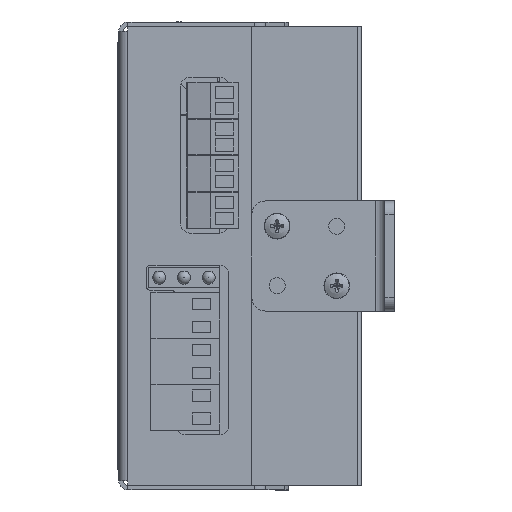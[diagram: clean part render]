
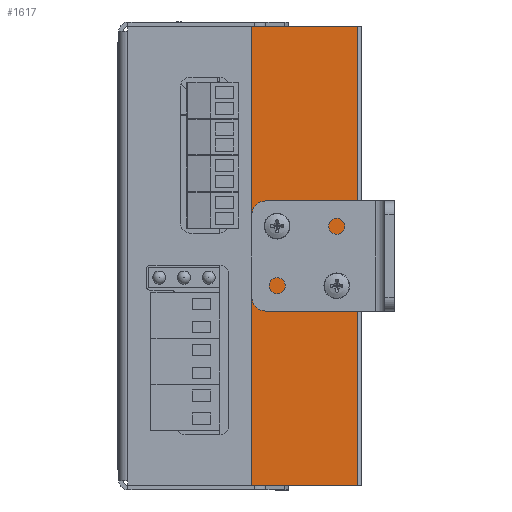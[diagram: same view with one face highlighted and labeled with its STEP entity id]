
A CAD part, left-side view. The second image highlights one B-rep face of the part: STEP entity #1617.
In plain terms, the highlighted planar face has unit normal (-1, 0, 0).
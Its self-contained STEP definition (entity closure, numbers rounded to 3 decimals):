
#1617=ADVANCED_FACE('',(#14464,#14466,#14468),#14470,.T.);
#14464=FACE_BOUND('',#14465,.T.);
#14465=EDGE_LOOP('',(#30751,#30752,#30753,#30754));
#14466=FACE_BOUND('',#14467,.T.);
#14467=EDGE_LOOP('',(#30755));
#14468=FACE_BOUND('',#14469,.T.);
#14469=EDGE_LOOP('',(#30756));
#14470=PLANE('',#14471);
#14471=AXIS2_PLACEMENT_3D('',#14472,#14473,#14474);
#14472=CARTESIAN_POINT('',(-45.,0.,-50.));
#14473=DIRECTION('',(-1.,0.,0.));
#14474=DIRECTION('',(0.,-1.,0.));
#30751=ORIENTED_EDGE('',*,*,#42599,.T.);
#30752=ORIENTED_EDGE('',*,*,#42600,.T.);
#30753=ORIENTED_EDGE('',*,*,#42601,.F.);
#30754=ORIENTED_EDGE('',*,*,#42602,.F.);
#30755=ORIENTED_EDGE('',*,*,#42603,.T.);
#30756=ORIENTED_EDGE('',*,*,#42604,.T.);
#42599=EDGE_CURVE('',#48523,#48524,#48525,.T.);
#42600=EDGE_CURVE('',#48524,#48526,#48527,.T.);
#42601=EDGE_CURVE('',#48528,#48526,#48529,.T.);
#42602=EDGE_CURVE('',#48523,#48528,#48530,.T.);
#42603=EDGE_CURVE('',#48531,#48531,#48532,.F.);
#42604=EDGE_CURVE('',#48533,#48533,#48534,.F.);
#48523=VERTEX_POINT('',#58390);
#48524=VERTEX_POINT('',#58391);
#48525=LINE('',#58392,#58393);
#48526=VERTEX_POINT('',#58395);
#48527=LINE('',#58396,#58397);
#48528=VERTEX_POINT('',#58399);
#48529=LINE('',#58400,#58401);
#48530=LINE('',#58403,#58404);
#48531=VERTEX_POINT('',#58406);
#48532=CIRCLE('',#58407,1.229);
#48533=VERTEX_POINT('',#58411);
#48534=CIRCLE('',#58412,1.229);
#58390=CARTESIAN_POINT('',(-45.,0.,-50.));
#58391=CARTESIAN_POINT('',(-45.,-23.,-50.));
#58392=CARTESIAN_POINT('',(-45.,0.,-50.));
#58393=VECTOR('',#58394,1.);
#58394=DIRECTION('',(0.,-1.,0.));
#58395=CARTESIAN_POINT('',(-45.,-23.,50.));
#58396=CARTESIAN_POINT('',(-45.,-23.,-50.));
#58397=VECTOR('',#58398,1.);
#58398=DIRECTION('',(0.,0.,1.));
#58399=CARTESIAN_POINT('',(-45.,0.,50.));
#58400=CARTESIAN_POINT('',(-45.,0.,50.));
#58401=VECTOR('',#58402,1.);
#58402=DIRECTION('',(0.,-1.,0.));
#58403=CARTESIAN_POINT('',(-45.,0.,-50.));
#58404=VECTOR('',#58405,1.);
#58405=DIRECTION('',(0.,0.,1.));
#58406=CARTESIAN_POINT('',(-45.,-18.5,-5.271));
#58407=AXIS2_PLACEMENT_3D('',#58408,#58409,#58410);
#58408=CARTESIAN_POINT('',(-45.,-18.5,-6.5));
#58409=DIRECTION('',(-1.,0.,0.));
#58410=DIRECTION('',(0.,0.,1.));
#58411=CARTESIAN_POINT('',(-45.,-5.5,7.729));
#58412=AXIS2_PLACEMENT_3D('',#58413,#58414,#58415);
#58413=CARTESIAN_POINT('',(-45.,-5.5,6.5));
#58414=DIRECTION('',(-1.,0.,0.));
#58415=DIRECTION('',(0.,0.,1.));
